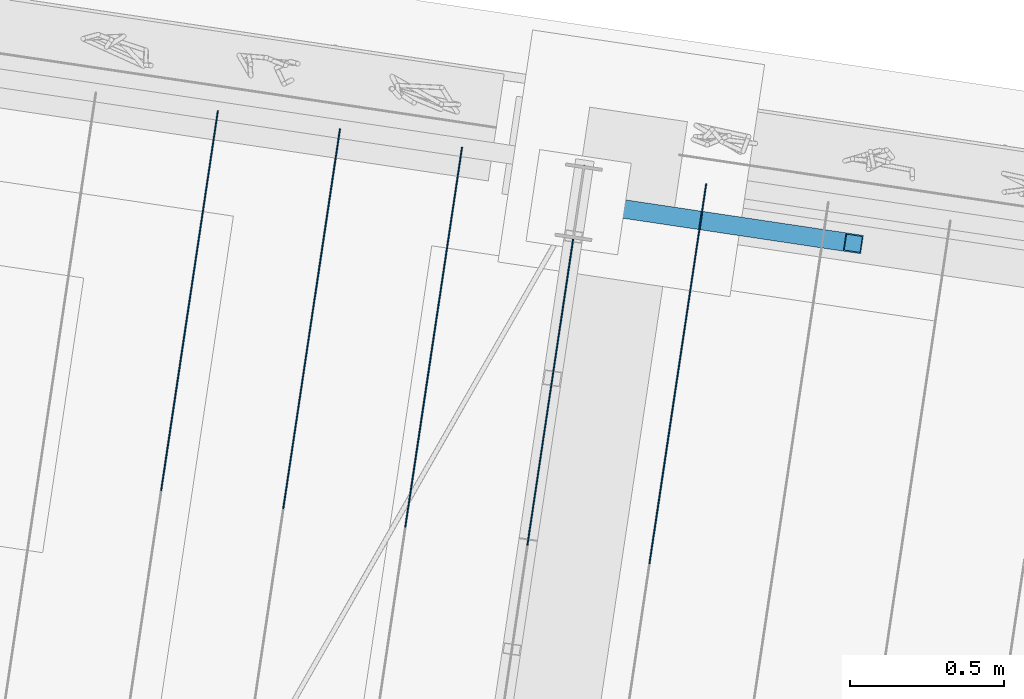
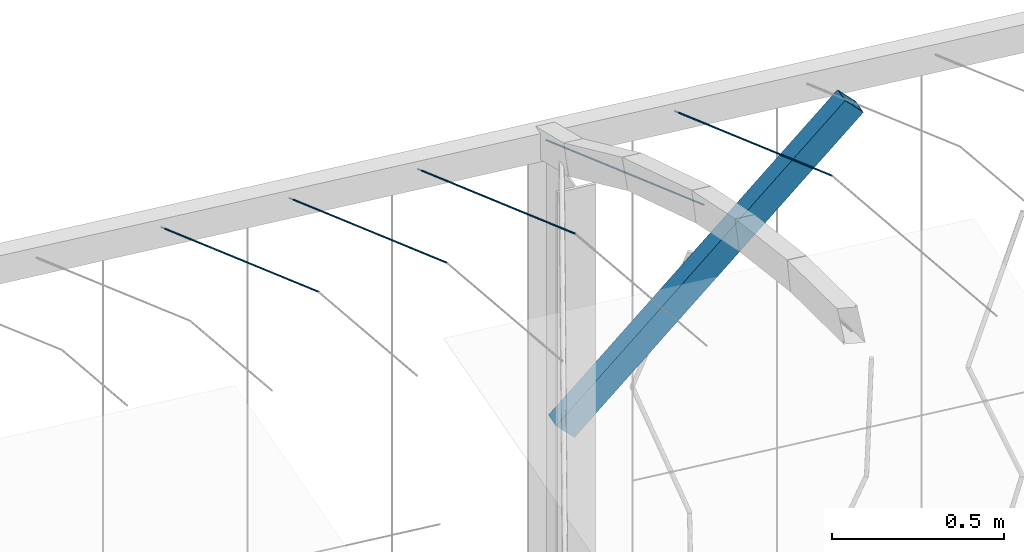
# One storey, part 34 of 142: 6 members, 1 element without a shape of its own.
"""IFC4 building model written with IfcOpenShell, lengths in metres."""

import ifcopenshell
import ifcopenshell.guid

model = None  # the IFC model being written
_history = None  # IfcOwnerHistory: only IFC2X3 demands one
_inside = {}  # id of a spatial element -> (the spatial element, [elements in it])
_under = {}  # id of a project, library or spatial element -> (it, [spatial elements below it])
_declared = {}  # id of a project -> (the project, [libraries it declares])
_typed = {}  # id of a type object -> (the type object, [elements of that type])
_made_of = {}  # id of a material, layer set ... -> (it, [elements and type objects made of it])


def new_model(schema):
    """Start an empty IFC model of exactly this schema.

    Asked for "IFC4X3", IfcOpenShell would pick the latest addendum, in which some entities
    have other attributes; the version numbers below select the first issue.
    IFC2X3 requires an IfcOwnerHistory on every rooted entity: one is made here for all.
    """
    global model, _history
    if schema == "IFC4X3":
        model = ifcopenshell.file(schema_version=(4, 3, 0, 0))
    else:
        model = ifcopenshell.file(schema=schema)
    _inside.clear()
    _under.clear()
    _declared.clear()
    _typed.clear()
    _made_of.clear()
    _history = None
    if model.schema == "IFC2X3":
        org = make("IfcOrganization", Name="unknown")
        user = make(
            "IfcPersonAndOrganization",
            ThePerson=make("IfcPerson", FamilyName="unknown"),
            TheOrganization=org,
        )
        app = make(
            "IfcApplication",
            ApplicationDeveloper=org,
            Version="unknown",
            ApplicationFullName="unknown",
            ApplicationIdentifier="unknown",
        )
        _history = make(
            "IfcOwnerHistory",
            OwningUser=user,
            OwningApplication=app,
            ChangeAction="ADDED",
            CreationDate=0,
        )
    return model


def make(cls, **values):
    """One entity of the class cls with the attributes given. An attribute that is None is left unset."""
    return model.create_entity(
        cls, **{name: value for name, value in values.items() if value is not None}
    )


def rooted(cls, **values):
    """An entity with a GlobalId (a new one), such as an element, a storey or a relation."""
    return make(cls, GlobalId=ifcopenshell.guid.new(), OwnerHistory=_history, **values)


def si_unit(unit_type, name, prefix=None):
    """IfcSIUnit, for example si_unit("LENGTHUNIT", "METRE", prefix="MILLI")."""
    return make("IfcSIUnit", UnitType=unit_type, Prefix=prefix, Name=name)


def assignment(units):
    """IfcUnitAssignment: the units of a project."""
    return None if units is None else make("IfcUnitAssignment", Units=units)


def point(xyz):
    """IfcCartesianPoint."""
    return None if xyz is None else make("IfcCartesianPoint", Coordinates=xyz)


def direction(xyz):
    """IfcDirection."""
    return None if xyz is None else make("IfcDirection", DirectionRatios=xyz)


def frame(location, z_axis=None, x_axis=None):
    """IfcAxis2Placement3D, a coordinate frame: its origin and axes. An axis left out is left unset."""
    return make(
        "IfcAxis2Placement3D",
        Location=point(location),
        Axis=direction(z_axis),
        RefDirection=direction(x_axis),
    )


def origin_with_axes():
    """The frame at (0, 0, 0) with the z axis (0, 0, 1) and the x axis (1, 0, 0) written out."""
    return frame((0.0, 0.0, 0.0), z_axis=(0.0, 0.0, 1.0), x_axis=(1.0, 0.0, 0.0))


def place(relative_to, where):
    """IfcLocalPlacement: puts the frame where relative to a parent placement (None: the world)."""
    return make(
        "IfcLocalPlacement", PlacementRelTo=relative_to, RelativePlacement=where
    )


def context(
    kind, dimensions, precision=None, world=None, true_north=None, identifier=None
):
    """IfcGeometricRepresentationContext, for example the 3D "Model" context."""
    return make(
        "IfcGeometricRepresentationContext",
        ContextIdentifier=identifier,
        ContextType=kind,
        CoordinateSpaceDimension=dimensions,
        Precision=precision,
        WorldCoordinateSystem=world,
        TrueNorth=true_north,
    )


def subcontext(parent, identifier, kind, view, scale=None):
    """IfcGeometricRepresentationSubContext, for example "Body" below "Model"."""
    return make(
        "IfcGeometricRepresentationSubContext",
        ContextIdentifier=identifier,
        ContextType=kind,
        ParentContext=parent,
        TargetScale=scale,
        TargetView=view,
    )


def project(units=None, contexts=None):
    """IfcProject with its units and contexts."""
    return rooted(
        "IfcProject",
        Name="project",
        RepresentationContexts=contexts,
        UnitsInContext=assignment(units),
    )


def spatial(cls, under=None, at=None, **own):
    """A site, building, storey or space (cls), placed at a placement, below another one or the project."""
    s = rooted(cls, ObjectPlacement=at, **own)
    if under is not None:
        _under.setdefault(under.id(), (under, []))[1].append(s)
    return s


def profile(cls, at=None, kind="AREA", **sizes):
    """A parametric profile (cls). Its sizes go by their IFC names, for example OverallWidth=200.0."""
    return make(cls, ProfileType=kind, Position=at, **sizes)


def hollow_rectangle(**sizes):
    """IfcRectangleHollowProfileDef."""
    return profile("IfcRectangleHollowProfileDef", **sizes)


def circle(**sizes):
    """IfcCircleProfileDef."""
    return profile("IfcCircleProfileDef", **sizes)


def extrude(swept, where, along, depth):
    """IfcExtrudedAreaSolid: the profile swept, set in the frame where, extruded along a direction by depth."""
    return make(
        "IfcExtrudedAreaSolid",
        SweptArea=swept,
        Position=where,
        ExtrudedDirection=direction(along),
        Depth=depth,
    )


def shape(context_of_items, identifier, shape_type, items):
    """IfcShapeRepresentation: the items that make up one representation, for example the "Body"."""
    return make(
        "IfcShapeRepresentation",
        ContextOfItems=context_of_items,
        RepresentationIdentifier=identifier,
        RepresentationType=shape_type,
        Items=items,
    )


def material(Name=None, Category=None):
    """IfcMaterial."""
    return make("IfcMaterial", Name=Name, Category=Category)


def material_profile(
    of_material, cross_section, Name=None, Category=None, Priority=None
):
    """IfcMaterialProfile: a cross section and its material."""
    return make(
        "IfcMaterialProfile",
        Name=Name,
        Material=of_material,
        Profile=cross_section,
        Priority=Priority,
        Category=Category,
    )


def profile_set(profiles, Name=None, composite=None):
    """IfcMaterialProfileSet."""
    return make(
        "IfcMaterialProfileSet",
        Name=Name,
        MaterialProfiles=profiles,
        CompositeProfile=composite,
    )


def profile_usage(for_profile_set, cardinal=None, extent=None):
    """IfcMaterialProfileSetUsage: how a profile set lies along its element."""
    return make(
        "IfcMaterialProfileSetUsage",
        ForProfileSet=for_profile_set,
        CardinalPoint=cardinal,
        ReferenceExtent=extent,
    )


def made_of(thing, what):
    """Note that an element or type object is made of a material, layer set ...; save() writes the relation."""
    if what is not None:
        _made_of.setdefault(what.id(), (what, []))[1].append(thing)
    return thing


def type_object(cls, material=None, **own):
    """A type object (cls), such as IfcWallType, which elements share."""
    return made_of(rooted(cls, **own), material)


def element(
    cls,
    number,
    at=None,
    inside=None,
    cuts=None,
    type_object=None,
    material=None,
    context=None,
    identifier="Body",
    shape_type=None,
    held_by="IfcProductDefinitionShape",
    body=None,
    shapes=None,
    **own,
):
    """One element of the class cls, such as IfcWall. Its Tag is "e" and its number.

    at: its placement. inside: the storey or other place that contains it. cuts: it is an
    opening in that element (IfcRelVoidsElement). A single representation is given by context,
    identifier, shape_type and body (its items); several are given by shapes. held_by: the class
    of the entity that holds the representations. save() writes the other relations.
    """
    e = rooted(cls, Tag="e%d" % number, ObjectPlacement=at, **own)
    if body is not None:
        shapes = [shape(context, identifier, shape_type, body)]
    if shapes is not None:
        e.Representation = make(held_by, Representations=shapes)
    if inside is not None:
        _inside.setdefault(inside.id(), (inside, []))[1].append(e)
    if cuts is not None:
        rooted(
            "IfcRelVoidsElement", RelatingBuildingElement=cuts, RelatedOpeningElement=e
        )
    if type_object is not None:
        _typed.setdefault(type_object.id(), (type_object, []))[1].append(e)
    return made_of(e, material)


def aggregate(whole, parts):
    """IfcRelAggregates: a whole, such as a stair, and the parts it consists of."""
    return rooted("IfcRelAggregates", RelatingObject=whole, RelatedObjects=parts)


def save(model, path):
    """Write the relations noted so far, then the file.

    IfcRelAggregates (storeys below a building ...), IfcRelContainedInSpatialStructure (elements
    in a storey), IfcRelDefinesByType, IfcRelAssociatesMaterial and IfcRelDeclares: one each for
    every whole, place, type object, material and project.
    """
    for whole, parts in _under.values():
        aggregate(whole, parts)
    for where, things in _inside.values():
        rooted(
            "IfcRelContainedInSpatialStructure",
            RelatedElements=things,
            RelatingStructure=where,
        )
    for kind, things in _typed.values():
        rooted("IfcRelDefinesByType", RelatedObjects=things, RelatingType=kind)
    for what, things in _made_of.values():
        rooted("IfcRelAssociatesMaterial", RelatedObjects=things, RelatingMaterial=what)
    for by, libraries in _declared.values():
        rooted("IfcRelDeclares", RelatingContext=by, RelatedDefinitions=libraries)
    model.write(path)


model = new_model("IFC4")

# Units and contexts
model_context = context("Model", 3, precision=1e-05, world=origin_with_axes(), true_north=direction((0.0, 1.0)))
body_context = subcontext(model_context, "Body", "Model", "MODEL_VIEW")
ifc_project = project(units=[si_unit("LENGTHUNIT", "METRE"), si_unit("AREAUNIT", "SQUARE_METRE"), si_unit("VOLUMEUNIT", "CUBIC_METRE")], contexts=[model_context])

# Site, building, storey
site_placement = place(None, origin_with_axes())
site = spatial("IfcSite", under=ifc_project, at=site_placement, Name="Lares · Rua das Mercês · artigo 4771")
building_placement = place(site_placement, frame((15.0, 9.7, 14.65), z_axis=(0.0, 0.0, 1.0), x_axis=(0.989015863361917, -0.147809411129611, 0.0)))
building = spatial("IfcBuilding", under=site, at=building_placement, Name="Casa Sobreposta")
storey_placement = place(building_placement, origin_with_axes())
storey = spatial("IfcBuildingStorey", under=building, at=storey_placement, Name="00 · Habitação e estacionamento", Elevation=14.65)

# Assembly, members
assembly_placement = place(storey_placement, origin_with_axes())
assembly = element("IfcElementAssembly", 1, at=assembly_placement, inside=storey, Name="Pérgola · prolongamento da estufa 6 m", ObjectType="PERGOLA_GREENHOUSE_EXTENSION", PredefinedType="USERDEFINED")
ifc_material_1 = material(Name="Aço pintado / Stahl lackiert", Category="steel")
ifc_material_profile_1 = material_profile(ifc_material_1, hollow_rectangle(XDim=0.06, YDim=0.08, WallThickness=0.004))
ifc_profile_set_1 = profile_set([ifc_material_profile_1], Name="RHS80x60x4")
ifc_profile_usage_1 = profile_usage(ifc_profile_set_1)
member_type_1 = type_object("IfcMemberType", Name="RHS80x60x4 / steel", PredefinedType="NOTDEFINED", material=ifc_profile_set_1)
member_1_placement = place(assembly_placement, frame((-3.0, 6.28, 5.3), z_axis=(0.699294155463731, 0.0, 0.714834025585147), x_axis=(0.0, -1.0, 0.0)))
member_1 = element("IfcMember", 2, at=member_1_placement, type_object=member_type_1, material=ifc_profile_usage_1, Name="Pérgola · escora alta", context=body_context, shape_type="SweptSolid", body=[
    extrude(hollow_rectangle(XDim=0.06, YDim=0.08, WallThickness=0.004), origin_with_axes(), (0.0, 0.0, 1.0), 1.28701204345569),
])
ifc_material_2 = material(Name="Aço galvanizado / Stahl verzinkt", Category="steel")
ifc_material_profile_2 = material_profile(ifc_material_2, circle(Radius=0.002))
ifc_profile_set_2 = profile_set([ifc_material_profile_2], Name="D0.004")
ifc_profile_usage_2 = profile_usage(ifc_profile_set_2)
member_type_2 = type_object("IfcMemberType", Name="D0.004 / galvanized", PredefinedType="NOTDEFINED", material=ifc_profile_set_2)
member_2_placement = place(assembly_placement, frame((-4.2, 5.15650506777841, 6.8157371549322), z_axis=(0.0, 0.905864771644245, -0.423567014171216), x_axis=(1.0, 0.0, 0.0)))
member_2 = element("IfcMember", 3, at=member_2_placement, type_object=member_type_2, material=ifc_profile_usage_2, Name="Pérgola · fio para trepadeiras", context=body_context, shape_type="SweptSolid", body=[
    extrude(circle(Radius=0.002), origin_with_axes(), (0.0, 0.0, 1.0), 1.3727158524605),
])
ifc_profile_usage_3 = profile_usage(ifc_profile_set_2)
member_3_placement = place(assembly_placement, frame((-3.8, 5.15650506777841, 6.8157371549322), z_axis=(0.0, 0.905864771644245, -0.423567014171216), x_axis=(1.0, 0.0, 0.0)))
member_3 = element("IfcMember", 4, at=member_3_placement, type_object=member_type_2, material=ifc_profile_usage_3, Name="Pérgola · fio para trepadeiras", context=body_context, shape_type="SweptSolid", body=[
    extrude(circle(Radius=0.002), origin_with_axes(), (0.0, 0.0, 1.0), 1.3727158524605),
])
ifc_profile_usage_4 = profile_usage(ifc_profile_set_2)
member_4_placement = place(assembly_placement, frame((-3.4, 5.15650506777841, 6.8157371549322), z_axis=(0.0, 0.905864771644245, -0.423567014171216), x_axis=(1.0, 0.0, 0.0)))
member_4 = element("IfcMember", 5, at=member_4_placement, type_object=member_type_2, material=ifc_profile_usage_4, Name="Pérgola · fio para trepadeiras", context=body_context, shape_type="SweptSolid", body=[
    extrude(circle(Radius=0.002), origin_with_axes(), (0.0, 0.0, 1.0), 1.3727158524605),
])
ifc_profile_usage_5 = profile_usage(ifc_profile_set_2)
member_5_placement = place(assembly_placement, frame((-3.0, 5.15650506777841, 6.8157371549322), z_axis=(0.0, 0.905864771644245, -0.423567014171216), x_axis=(1.0, 0.0, 0.0)))
member_5 = element("IfcMember", 6, at=member_5_placement, type_object=member_type_2, material=ifc_profile_usage_5, Name="Pérgola · fio para trepadeiras", context=body_context, shape_type="SweptSolid", body=[
    extrude(circle(Radius=0.002), origin_with_axes(), (0.0, 0.0, 1.0), 1.3727158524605),
])
ifc_profile_usage_6 = profile_usage(ifc_profile_set_2)
member_6_placement = place(assembly_placement, frame((-2.6, 5.15650506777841, 6.8157371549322), z_axis=(0.0, 0.905864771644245, -0.423567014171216), x_axis=(1.0, 0.0, 0.0)))
member_6 = element("IfcMember", 7, at=member_6_placement, type_object=member_type_2, material=ifc_profile_usage_6, Name="Pérgola · fio para trepadeiras", context=body_context, shape_type="SweptSolid", body=[
    extrude(circle(Radius=0.002), origin_with_axes(), (0.0, 0.0, 1.0), 1.3727158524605),
])
aggregate(assembly, [member_1, member_2, member_3, member_4, member_5, member_6])

save(model, "model.ifc")
